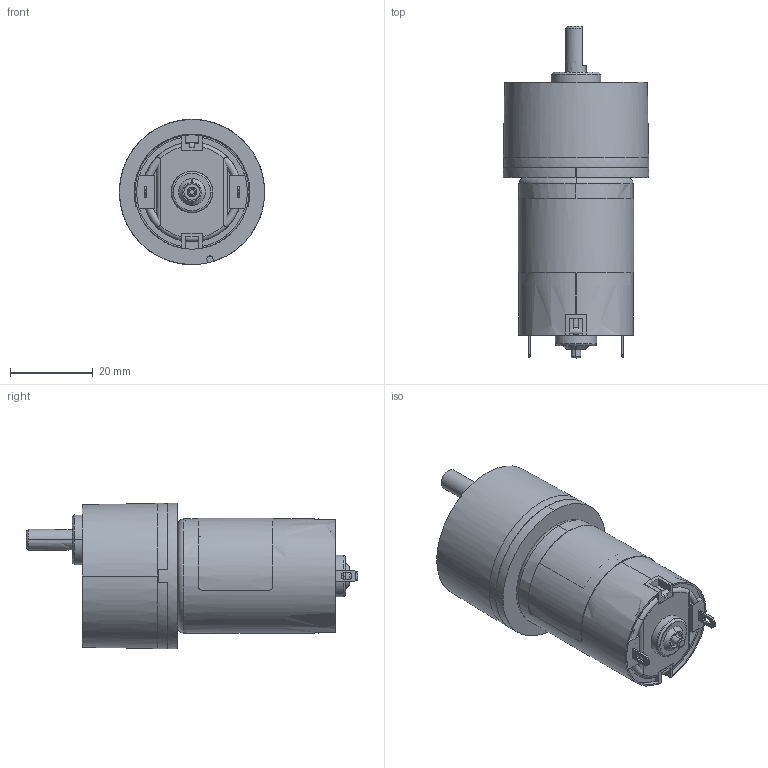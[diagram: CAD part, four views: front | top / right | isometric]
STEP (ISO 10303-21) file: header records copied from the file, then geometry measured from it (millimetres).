
FILE_DESCRIPTION((''),'2;1');
FILE_NAME('82722000_SW0001','2015-05-12T',('aletme1'),('CROUZET-AUTOMATISMES'),'PRO/ENGINEER BY PARAMETRIC TECHNOLOGY CORPORATION, 2012090','PRO/ENGINEER BY PARAMETRIC TECHNOLOGY CORPORATION, 2012090','');
FILE_SCHEMA(('CONFIG_CONTROL_DESIGN'));
Length unit declared in the file: millimetre
Products named in the file (1): 82722000_SW0001
Bounding box: 35 x 80 x 35 mm (x, y, z)
Surface area: 12894.8 mm2 (no closed solid volume)
Topology: 0 solids, 0 shells, 174 faces, 927 edges, 917 vertices
Faces by surface type: bspline 164, torus 10
Entity records: 19625 total; most frequent: CARTESIAN_POINT 10861, DIRECTION 1476, TRIMMED_CURVE 1268, VECTOR 1080, LINE 1080, DEFINITIONAL_REPRESENTATION 907, PCURVE 907, COMPOSITE_CURVE_SEGMENT 907
